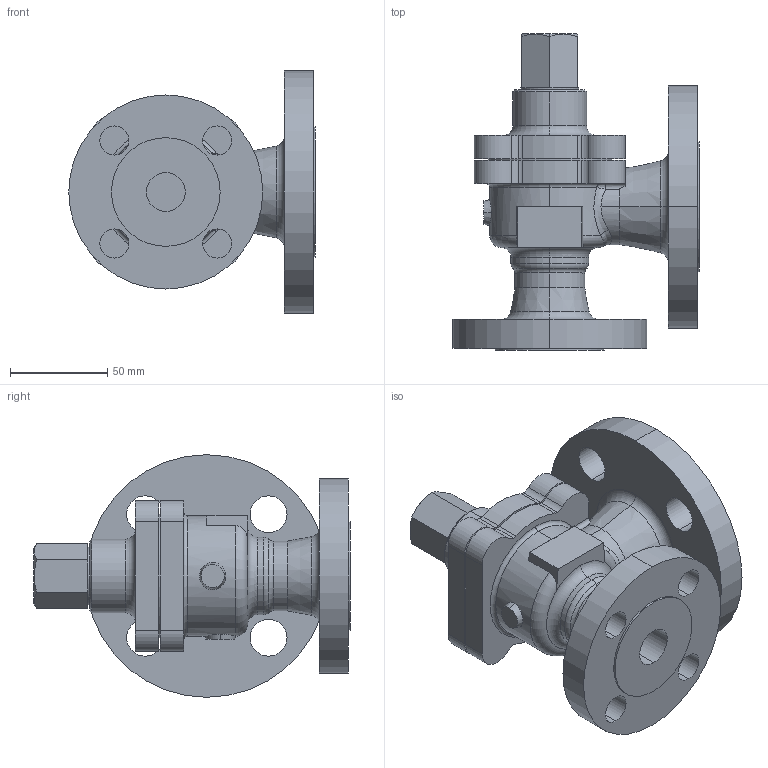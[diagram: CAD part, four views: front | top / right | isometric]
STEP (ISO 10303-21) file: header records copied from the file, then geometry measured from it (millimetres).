
FILE_DESCRIPTION (( 'STEP AP203' ), '1' );
FILE_NAME ('AL-31 20A.STEP', '2026-01-13T07:17:49', ( '' ), ( '' ), 'SwSTEP 2.0', 'SolidWorks 2024', '' );
FILE_SCHEMA (( 'CONFIG_CONTROL_DESIGN' ));
Length unit declared in the file: millimetre
Products named in the file (1): AL-31 20A
Bounding box: 127 x 163.3 x 125 mm (x, y, z)
Volume: 644890.4 mm3; surface area: 93330.1 mm2
Topology: 1 solids, 1 shells, 154 faces, 377 edges, 236 vertices
Faces by surface type: cylinder 77, plane 44, torus 16, cone 12, bspline 5
Entity records: 5490 total; most frequent: CARTESIAN_POINT 1644, DIRECTION 858, ORIENTED_EDGE 754, EDGE_CURVE 377, AXIS2_PLACEMENT_3D 360, VERTEX_POINT 236, CIRCLE 210, EDGE_LOOP 181
